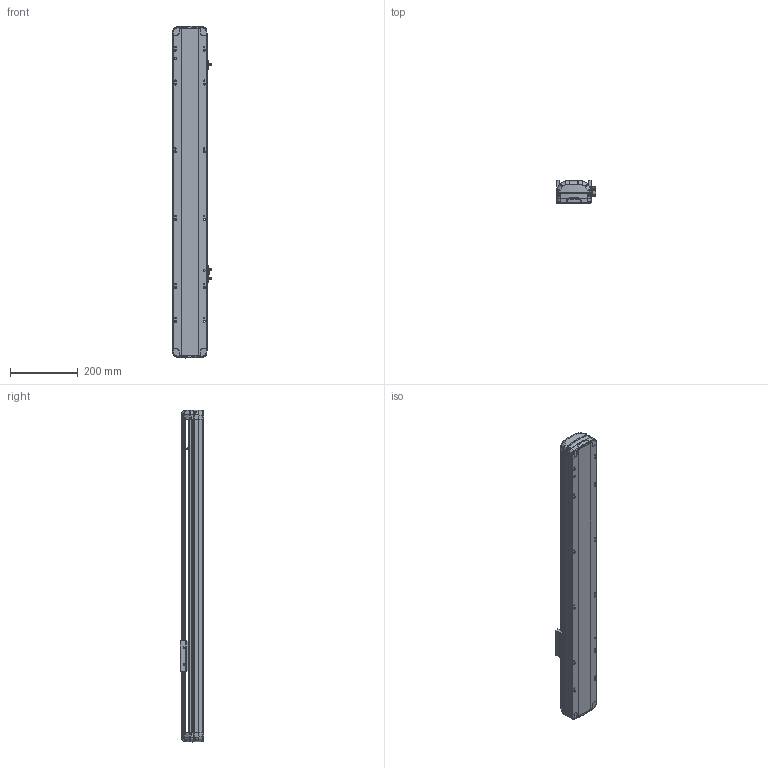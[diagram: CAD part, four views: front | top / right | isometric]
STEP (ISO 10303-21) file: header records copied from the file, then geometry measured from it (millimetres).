
FILE_DESCRIPTION (( 'STEP AP214' ), '1' );
FILE_NAME ('RTH10-XX-600-B-M10-C4.STEP', '2025-10-25T05:14:51', ( 'Microsoft' ), ( 'Microsoft' ), 'SwSTEP 2.0', 'SolidWorks 2018', '' );
FILE_SCHEMA (( 'AUTOMOTIVE_DESIGN' ));
Length unit declared in the file: millimetre
Products named in the file (7): N_RTH12-GY-001P^RTH10-XX-XX-B-M10-C4; N_RTH12-B-011P-臏倰第菁釱^RTH10-XX-XX-B-M10-C4; N_OMRON EE-SX672 传感器^RTH10-XX-XX-B-M10-C4; RTH10-XX-600-B-M10-C4; N_RTH12-B-007P-奻裔^RTH10-XX-XX-B-M10-C4; N_RTH13-L-012覜茼え俋离^RTH10-XX-XX-B-M10-C4; N_RTH12-GY-004-賑釱^RTH10-XX-XX-B-M10-C4
Assembly tree (9 placements, depth 2):
  RTH10-XX-600-B-M10-C4
    N_RTH12-B-011P-臏倰第菁釱^RTH10-XX-XX-B-M10-C4
    N_RTH13-L-012覜茼え俋离^RTH10-XX-XX-B-M10-C4
    N_OMRON EE-SX672 传感器^RTH10-XX-XX-B-M10-C4  x3
    N_RTH12-B-007P-奻裔^RTH10-XX-XX-B-M10-C4
    N_RTH12-GY-004-賑釱^RTH10-XX-XX-B-M10-C4
    N_RTH12-GY-001P^RTH10-XX-XX-B-M10-C4  x2
Bounding box: 116.5 x 70 x 979.29 mm (x, y, z)
Volume: 3685425 mm3; surface area: 602930.8 mm2
Topology: 7 solids, 11 shells, 2200 faces, 6166 edges, 4036 vertices
Faces by surface type: plane 1053, bspline 712, cylinder 415, cone 16, torus 4
Entity records: 49526 total; most frequent: CARTESIAN_POINT 21578, ORIENTED_EDGE 6460, DIRECTION 4534, EDGE_CURVE 3236, VERTEX_POINT 2123, VECTOR 1668, LINE 1668, AXIS2_PLACEMENT_3D 1433
